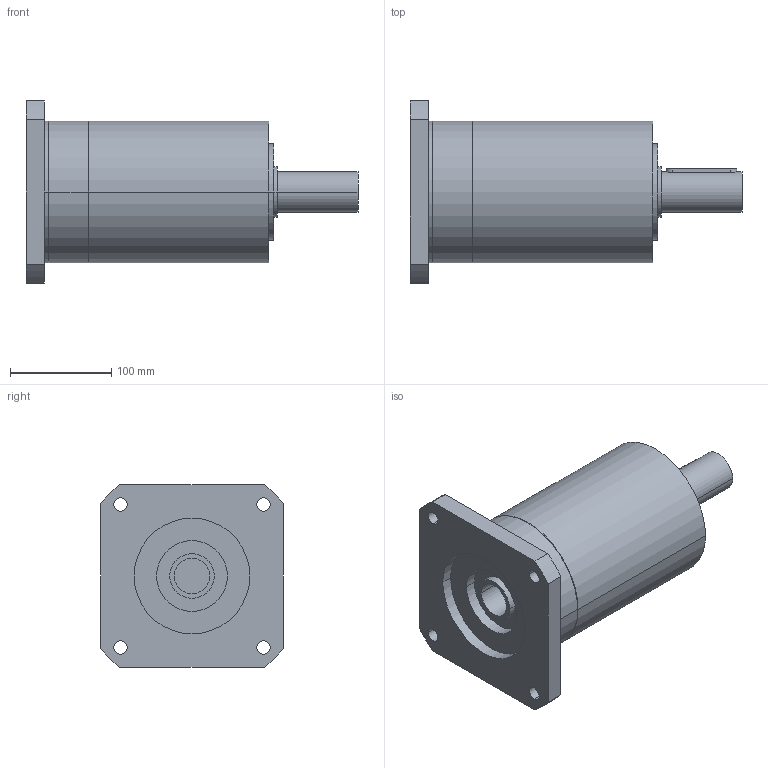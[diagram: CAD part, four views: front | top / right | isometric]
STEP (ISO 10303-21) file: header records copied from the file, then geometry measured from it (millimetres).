
FILE_DESCRIPTION(('CoCreate Modeling STEP Export'),'2;1');
FILE_NAME('GPR150_ig-9-12-16-20-28-35_40_B14_35_P09.stp','2014-08-19T17:04:18',(''),(''),'CoCreate Modeling STEP processor for AP214 (Solid Model)','CoCreate Modeling 16.00C 25-Feb-2009 (C) Parametric Technology GmbH','');
FILE_SCHEMA(('AUTOMOTIVE_DESIGN { 1 0 10303 214 1 1 1 1 }'));
Length unit declared in the file: millimetre
Products named in the file (2): GPR150_ig-9-12-16-20-28-35_40_B14_35_P09
Assembly tree (1 placements, depth 2):
  GPR150_ig-9-12-16-20-28-35_40_B14_35_P09
    GPR150_ig-9-12-16-20-28-35_40_B14_35_P09
Bounding box: 328 x 180 x 180 mm (x, y, z)
Volume: 3892356.1 mm3; surface area: 209181 mm2
Topology: 1 solids, 1 shells, 73 faces, 196 edges, 138 vertices
Faces by surface type: cylinder 44, plane 23, cone 6
Entity records: 2038 total; most frequent: CARTESIAN_POINT 396, ORIENTED_EDGE 388, DIRECTION 272, EDGE_CURVE 194, VERTEX_POINT 138, AXIS2_PLACEMENT_3D 102, EDGE_LOOP 96, FACE_OUTER_BOUND 73
